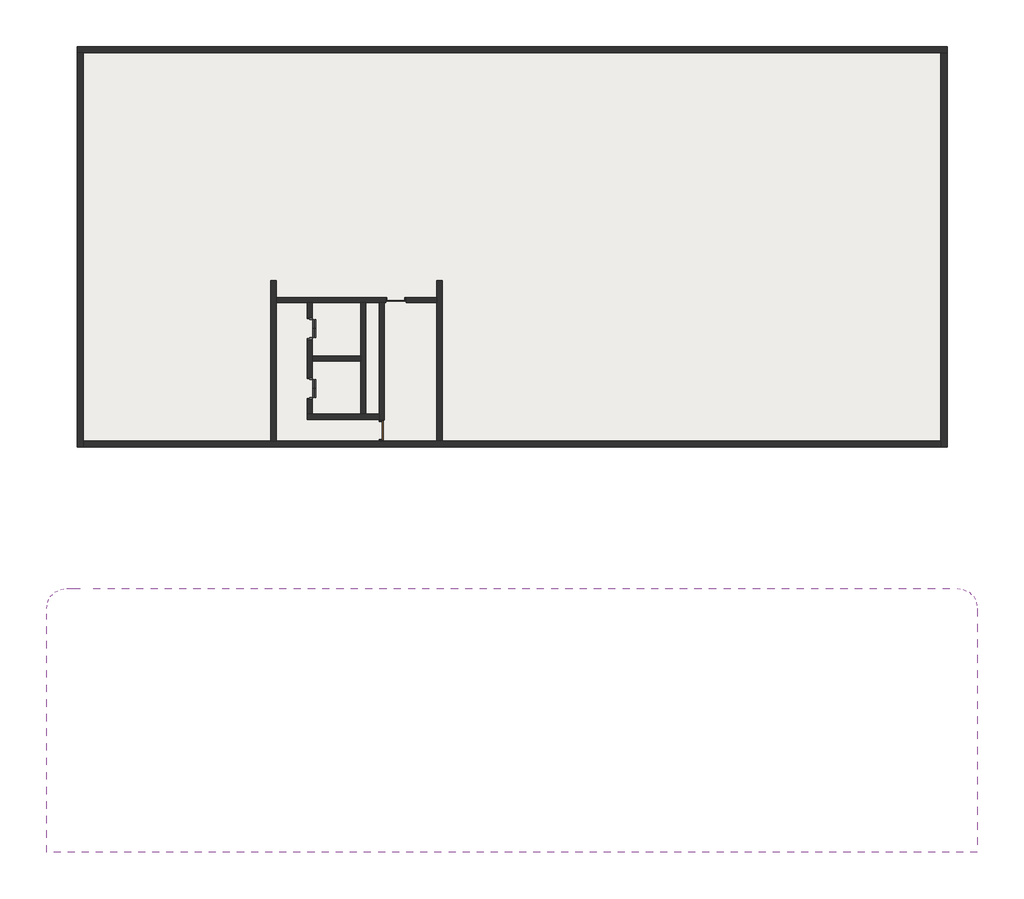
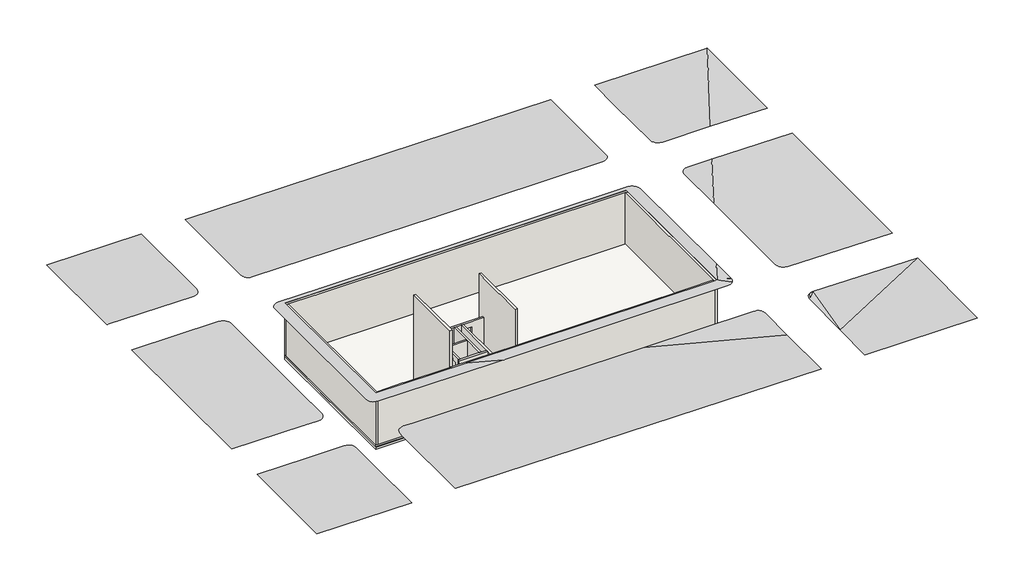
# One storey, incomplete: 12 walls, 3 proxies, 2 doors, 2 slabs.
"""IFC4 building model written with IfcOpenShell, lengths in millimetres."""

from ifc_helpers import new_model, si_unit, frame, origin, place, context, project, spatial, polyline, outline, extrude, faceted_brep, triangles, transform, mapped, element, save
from components import lift_single_entry_gen_type1_208d8e88, swing_metal_frame_single_dor_f6efc24d

model = new_model("IFC4")

# Units and contexts
model_context = context("Model", 3, world=origin())
ifc_project = project(units=[si_unit("LENGTHUNIT", "METRE", prefix="MILLI")], contexts=[model_context])

# Site, building, storey
site = spatial("IfcSite", under=ifc_project)
building = spatial("IfcBuilding", under=site)
storey = spatial("IfcBuildingStorey", under=building, Name="B2階", Elevation=18100.0)

# Proxies
placement = place(None, origin())
element("IfcBuildingElementProxy", 1, Name="Building Element Proxy", at=placement, inside=storey, context=model_context, shape_type="Tessellation", body=[
    triangles([(-16527.2760773, -7010.0000244, 25061.0819275), (-16527.2760773, -20035.0003418, 25049.9988831), (-4650.3943428, -20035.0003418, 24999.8507812), (-4650.3943428, -12175.2103271, 25030.3512451), (-4650.3943428, -8010.000032, 25027.3746826), (-4699.337867, -7700.9828476, 25027.2119019), (-4841.3771622, -7422.2149796, 25027.1793457), (-5062.6090073, -7200.9831345, 25027.2839905), (-5341.3774567, -7058.9435486, 25027.5118835), (-5650.3940598, -7010.0000244, 25027.8420959), (-10187.1607452, -7010.0000244, 25033.2022339), (52234.9976807, -20035.0003418, 24759.6561401), (66363.1167114, -20035.0003418, 24699.9993164), (66363.1167114, -7010.0000244, 24733.2437988), (53235.0017578, -7010.0000244, 24887.9343567), (52925.9834106, -7058.9435486, 24891.4504211), (52749.910437, -7148.6572586, 24893.2944946), (52647.2143799, -7200.9831345, 24892.5108215), (52425.9813721, -7422.2149796, 24889.1924194), (52283.9435303, -7700.9828476, 24885.0112793), (52234.9976807, -8010.000032, 24880.374353), (52234.9976807, -14670.0801361, 24780.4734741), (66363.1167114, 25689.999353, 24816.7038208), (66363.1167114, 38735.0007751, 24849.9994629), (52255.0011108, 38735.0007751, 24892.550354), (52255.0011108, 34327.4884094, 24883.0555847), (52255.0011108, 26690.0011047, 24906.9145935), (52303.9423096, 26380.9827576, 24907.8145386), (52445.9848022, 26102.2137268, 24908.4912415), (52667.2131592, 25880.9830444, 24908.8795898), (52945.9821899, 25738.9428772, 24908.9423767), (53255.0005371, 25689.999353, 24908.6726257), (59254.1087769, 25689.999353, 24900.4708008), (-4650.3943428, 38735.0007751, 25064.1794128), (-16527.2760773, 38735.0007751, 25100.0004822), (-16527.2760773, 25689.999353, 25088.9011597), (-5650.3940598, 25689.999353, 25041.0738464), (-5341.3774567, 25738.9428772, 25039.7553223), (-5062.6090073, 25880.9830444, 25038.6507385), (-4841.3771622, 26102.2137268, 25037.8670654), (-4759.2138634, 26263.4690002, 25037.6414978), (-4699.337867, 26380.9827576, 25037.7159119), (-4650.3943428, 26690.0011047, 25038.2321594), (52234.9976807, 19209.9995361, 24930.3108398), (52234.9976807, 12809.9680939, 24950.3026428), (52234.9976807, -510.0000112, 24916.3070435), (52283.9435303, -819.0170139, 24914.9420105), (52425.9813721, -1097.7852453, 24912.5561096), (52647.2143799, -1319.0170177, 24909.3842102), (52925.9834106, -1461.0564583, 24905.7379211), (53235.0017578, -1509.9999825, 24901.9707092), (66363.1167114, -1509.9999825, 24747.2824768), (66363.1167114, 20209.9989624, 24802.7186279), (56267.7236206, 20209.9989624, 24921.6718323), (53235.0017578, 20209.9989624, 24925.8180908), (52925.9834106, 20161.0554382, 24926.3947998), (52647.2143799, 20019.0175964, 24927.2180054), (52425.9813721, 19797.7845886, 24928.2132935), (52283.9435303, 19519.0178833, 24929.2783447), (46734.9985107, 38735.0007751, 24909.198175), (869.6057138, 38735.0007751, 25047.5315918), (869.6057138, 26690.0011047, 25021.5843384), (917.5703733, 26387.1637756, 25020.7867126), (1056.7690716, 26113.9711487, 25019.7797974), (1273.5761868, 25897.1634521, 25018.6589355), (1546.7691044, 25757.9649719, 25017.5334229), (1849.6057068, 25710.0004578, 25016.5172058), (24671.0615479, 25710.0004578, 24947.6865234), (45734.9990845, 25710.0004578, 24918.8906067), (46044.0174316, 25758.9439819, 24918.3162231), (46322.7864624, 25900.9841492, 24917.4906921), (46544.0148193, 26122.2148315, 24916.4977295), (46686.057312, 26400.9838623, 24915.4326782), (46734.9985107, 26709.999884, 24914.4001831), (46734.9985107, 32602.9866943, 24895.989679), (-16527.2760773, 20209.9989624, 25084.2386536), (-16527.2760773, -1509.9999825, 25065.7607117), (-7509.9532288, -1509.9999825, 25026.1096436), (-5650.3940598, -1509.9999825, 25023.9121033), (-5341.3774567, -1461.0564583, 25023.5121277), (-5062.6090073, -1319.0170177, 25023.0819214), (-4841.3771622, -1097.7852453, 25022.6610168), (-4699.337867, -819.0170139, 25022.2935974), (-4650.3943428, -510.0000112, 25022.0168701), (-4650.3943428, 4364.6178909, 25018.5333618), (-4650.3943428, 19209.9995361, 25031.1628235), (-4699.337867, 19519.0178833, 25031.641864), (-4841.3771622, 19797.7845886, 25032.5022766), (-5062.6090073, 20019.0175964, 25033.6649963), (-5341.3774567, 20161.0554382, 25035.0114258), (-5650.3940598, 20209.9989624, 25036.4113403), (849.6056992, -20035.0003418, 24976.6266174), (46734.9985107, -20035.0003418, 24782.8779785), (46734.9985107, -12581.5448273, 24811.8017944), (46734.9985107, -8010.000032, 24880.374353), (46686.057312, -7700.9828476, 24885.0112793), (46544.0148193, -7422.2149796, 24889.1924194), (46322.7864624, -7200.9831345, 24892.5108215), (46044.0174316, -7058.9435486, 24894.6409241), (45734.9990845, -7010.0000244, 24895.3757629), (32062.7499023, -7010.0000244, 24895.3757629), (3154.724881, -7010.0000244, 25017.4380798), (1849.6057068, -7010.0000244, 25018.9798462), (1540.588813, -7058.9435486, 25019.3798218), (1261.820509, -7200.9831345, 25019.8100281), (1040.5887365, -7422.2149796, 25020.2309326), (898.5492233, -7700.9828476, 25020.5960266), (849.6056992, -8010.000032, 25020.8750793), (849.6056992, -8535.4638885, 25021.2518005), (46734.9985107, 19209.9995361, 24937.8289856), (46686.057312, 19519.0178833, 24936.931366), (46544.0148193, 19797.7845886, 24936.2546631), (46322.7864624, 20019.0175964, 24935.8663147), (46044.0174316, 20161.0554382, 24935.8035278), (45734.9990845, 20209.9989624, 24936.0732788), (7065.9710266, 20209.9989624, 24988.9374939), (1869.6057941, 20209.9989624, 25004.6109558), (1560.588755, 20161.0554382, 25005.4364868), (1281.820451, 20019.0175964, 25005.9713379), (1205.2584091, 19942.4548279, 25006.0364502), (1060.5887512, 19797.7845886, 25006.5503723), (918.549238, 19519.0178833, 25006.9387207), (869.6057138, 19209.9995361, 25006.8898865), (869.6057138, 15704.7902344, 25003.9086731), (869.6057138, -529.9999895, 25015.5079651), (917.5703733, -832.8366646, 25015.6684204), (1056.7690716, -1106.0295822, 25015.6986511), (1273.5761868, -1322.8366974, 25015.5963318), (1546.7691044, -1462.035323, 25015.3730896), (1849.6057068, -1509.9999825, 25015.0498535), (11465.7420044, -1509.9999825, 25003.6877563), (17578.9095612, -1509.9999825, 24977.8753784), (45734.9990845, -1509.9999825, 24977.8753784), (46044.0174316, -1461.0564583, 24978.6102173), (46322.7864624, -1319.0170177, 24980.7403198), (46453.4296509, -1188.3725939, 24982.6983398), (46544.0148193, -1097.7852453, 24981.8635071), (46686.057312, -819.0170139, 24980.9007751), (46734.9985107, -510.0000112, 24981.1123901), (46734.9985107, 2717.4931389, 24989.3514221), (45235.0016968, -50.0000004, 24999.7740417), (13734.108197, -50.0000004, 24999.7740417), (13671.9398987, -50.0000004, 25000.0368164), (2369.605798, -50.0000004, 25013.3918152), (2369.605798, 18693.6566345, 24999.9996094), (2369.605798, 18724.0594299, 24999.9996094), (2369.605798, 18742.810611, 24999.9414734), (2369.605798, 19709.9992493, 25002.0250671), (5465.508252, 19709.9992493, 24992.6884277), (45235.0016968, 19709.9992493, 24938.3173279), (45235.0016968, -35.0000007, 24999.9996094), (2344.6057251, 18734.9994598, 24999.9996094)], [[9, 5, 8], [1, 2, 11], [9, 10, 5], [11, 2, 4], [4, 5, 10], [8, 6, 7], [8, 5, 6], [4, 2, 3], [10, 11, 4], [78, 85, 77], [84, 78, 79], [80, 81, 84], [82, 83, 84], [82, 84, 81], [80, 84, 79], [85, 78, 84], [103, 108, 109], [106, 107, 108], [109, 92, 102], [106, 108, 105], [108, 104, 105], [103, 104, 108], [109, 102, 103], [125, 126, 144], [144, 124, 125], [77, 85, 76], [144, 126, 127], [130, 131, 144], [128, 129, 144], [144, 129, 130], [128, 144, 127], [92, 101, 102], [91, 76, 86], [36, 37, 43], [86, 87, 88], [86, 89, 90], [89, 86, 88], [86, 90, 91], [76, 85, 86], [38, 39, 41], [36, 43, 35], [41, 39, 40], [37, 41, 43], [37, 38, 41], [34, 35, 43], [62, 67, 61], [43, 41, 42], [123, 152, 122], [152, 123, 145], [148, 121, 122], [122, 152, 148], [146, 147, 152], [148, 152, 147], [121, 148, 120], [144, 145, 124], [152, 145, 146], [117, 148, 149], [119, 120, 118], [64, 65, 62], [66, 62, 65], [148, 118, 120], [148, 117, 118], [149, 116, 117], [67, 62, 66], [67, 68, 61], [62, 63, 64], [124, 145, 123], [143, 144, 131], [98, 99, 100], [133, 141, 132], [94, 100, 101], [95, 98, 100], [95, 97, 98], [97, 95, 96], [95, 100, 94], [94, 101, 93], [141, 133, 134], [142, 143, 131], [150, 151, 140], [132, 141, 142], [134, 136, 141], [138, 141, 136], [139, 141, 138], [138, 136, 137], [136, 134, 135], [151, 141, 139], [132, 142, 131], [17, 21, 15], [12, 13, 22], [21, 17, 20], [22, 15, 21], [19, 17, 18], [17, 19, 20], [22, 13, 14], [49, 50, 46], [46, 47, 48], [46, 48, 49], [50, 51, 46], [17, 15, 16], [15, 22, 14], [51, 52, 46], [46, 52, 45], [93, 101, 92], [150, 115, 116], [113, 150, 112], [113, 114, 150], [150, 114, 115], [150, 111, 112], [150, 110, 111], [110, 150, 140], [151, 139, 140], [69, 70, 71], [68, 69, 75], [74, 69, 71], [72, 73, 74], [60, 68, 75], [69, 74, 75], [71, 72, 74], [68, 60, 61], [150, 116, 149], [59, 44, 58], [57, 58, 44], [44, 56, 57], [56, 44, 55], [55, 44, 54], [45, 54, 44], [45, 53, 54], [27, 28, 30], [33, 26, 27], [24, 25, 26], [29, 30, 28], [33, 23, 24], [27, 31, 32], [33, 24, 26], [27, 30, 31], [27, 32, 33], [53, 45, 52]], closed=False),
])
lift_single_entry_gen_type1_shape = lift_single_entry_gen_type1_208d8e88(model_context)
element("IfcBuildingElementProxy", 2, Name="Lift_Single Entry_GEN : Type1", ObjectType="Lift_Single Entry_GEN : Type1", at=placement, inside=storey, context=model_context, shape_type="MappedRepresentation", body=[
    mapped(lift_single_entry_gen_type1_shape, transform((13819.6062665, 5591.0857154, 18100.0), x_axis=(0.0, 1.0, 0.0), y_axis=(-1.0, 0.0, 0.0), z_axis=(0.0, 0.0, 1.0))),
])
element("IfcBuildingElementProxy", 3, Name="Lift_Single Entry_GEN : Type1", ObjectType="Lift_Single Entry_GEN : Type1", at=placement, inside=storey, context=model_context, shape_type="MappedRepresentation", body=[
    mapped(lift_single_entry_gen_type1_shape, transform((13819.6062665, 2641.0857154, 18100.0), x_axis=(0.0, 1.0, 0.0), y_axis=(-1.0, 0.0, 0.0), z_axis=(0.0, 0.0, 1.0))),
])

# Doors
swing_metal_frame_single_dor_shape = swing_metal_frame_single_dor_f6efc24d(model_context)
element("IfcDoor", 4, ObjectType="Swing_Metal Frame_Single_DOR : 2140h x 920 (2210x1010 BLK)", at=placement, inside=storey, context=model_context, shape_type="MappedRepresentation", body=[
    mapped(swing_metal_frame_single_dor_shape, transform((17369.6062665, 770.0, 18100.0), x_axis=(0.0, 1.0, 0.0), y_axis=(-1.0, 0.0, 0.0), z_axis=(0.0, 0.0, 1.0))),
])
element("IfcDoor", 5, ObjectType="Swing_Metal Frame_Single_DOR : 2140h x 920 (2210x1010 BLK)", at=placement, inside=storey, context=model_context, shape_type="MappedRepresentation", body=[
    mapped(swing_metal_frame_single_dor_shape, transform((18069.6062665, 7210.0, 18100.0), x_axis=(1.0, 0.0, 0.0), y_axis=(0.0, 1.0, 0.0), z_axis=(0.0, 0.0, 1.0))),
])

# Slabs
element("IfcSlab", 6, ObjectType="Concept Floor_300mm", at=placement, inside=storey, context=model_context, shape_type="SweptSolid", body=[
    extrude(outline(polyline([(2369.6057353, 19710.0), (45235.0, 19710.0), (45235.0, 50.0), (2369.6057353, 50.0), (2369.6057353, 19710.0)])), frame((0.0, 0.0, 17800.0), z_axis=(0.0, 0.0, 1.0), x_axis=(1.0, 0.0, 0.0)), (0.0, 0.0, 1.0), 300.0),
])
element("IfcSlab", 7, ObjectType="Pad 1", at=placement, inside=storey, context=model_context, shape_type="SweptSolid", body=[
    extrude(outline(polyline([(45235.0, -50.0), (2369.6057353, -50.0), (2369.6057353, 19710.0), (45235.0, 19710.0), (45235.0, -50.0)])), frame((0.0, 0.0, 17500.0), z_axis=(0.0, 0.0, 1.0), x_axis=(1.0, 0.0, 0.0)), (0.0, 0.0, 1.0), 300.0),
])

# Walls
element("IfcWall", 8, ObjectType="Brickwork_Double_270mm", at=placement, inside=storey, context=model_context, shape_type="Brep", body=[
    faceted_brep([(12182.1904782, 250.0, 18100.0), (12182.1904782, 7085.0, 18100.0), (12182.1904782, 7335.0, 18100.0), (12182.1904782, 8160.005792, 18100.0), (12182.1904782, 8160.005792, 24900.0), (12182.1904782, 8160.005792, 25100.0), (12182.1904782, 8160.005792, 29700.0), (12182.1904782, 309.0898177, 29700.0), (12182.1904782, 309.0898177, 25100.0), (12182.1904782, 309.0898177, 24900.0), (12182.1904782, 250.0, 24900.0), (11912.1904782, 8160.005792, 18100.0), (11912.1904782, 250.0, 18100.0), (11912.1904782, 250.0, 24900.0), (11912.1904782, 309.0898177, 24900.0), (11912.1904782, 309.0898177, 27800.0), (11912.1904782, 309.0898177, 29700.0), (11912.1904782, 8160.005792, 29700.0), (11912.1904782, 8160.005792, 25100.0), (11912.1904782, 8160.005792, 24900.0)], [[[0, 1, 2, 3, 4, 5, 6, 7, 8, 9, 10]], [[11, 12, 13, 14, 15, 16, 17, 18, 19]], [[3, 2, 1, 0, 12, 11]], [[7, 6, 17, 16]], [[3, 11, 19, 18, 17, 6, 5, 4]], [[14, 13, 10, 9]], [[0, 10, 13, 12]], [[7, 16, 15, 14, 9, 8]]]),
])
element("IfcWall", 9, ObjectType="Brickwork_Double_270mm", at=placement, inside=storey, context=model_context, shape_type="Brep", body=[
    faceted_brep([(20364.6062665, 250.0, 18100.0), (20364.6062665, 8160.005792, 18100.0), (20364.6062665, 8160.005792, 29700.0), (20364.6062665, 309.0898177, 29700.0), (20364.6062665, 309.0898177, 24900.0), (20364.6062665, 250.0, 24900.0), (20094.6062665, 250.0, 18100.0), (20094.6062665, 250.0, 24900.0), (20094.6062665, 309.0898177, 24900.0), (20094.6062665, 309.0898177, 29700.0), (20094.6062665, 7085.0, 29700.0), (20094.6062665, 7335.0, 29700.0), (20094.6062665, 8160.005792, 29700.0), (20094.6062665, 8160.005792, 18100.0), (20094.6062665, 7335.0, 18100.0), (20094.6062665, 7085.0, 18100.0)], [[[0, 1, 2, 3, 4, 5]], [[6, 7, 8, 9, 10, 11, 12, 13, 14, 15]], [[1, 0, 6, 15, 14, 13]], [[3, 2, 12, 11, 10, 9]], [[4, 8, 7, 5]], [[0, 5, 7, 6]], [[4, 3, 9, 8]], [[2, 1, 13, 12]]]),
])
element("IfcWall", 10, ObjectType="C1 - Concrete Type 3 - 250mm", at=placement, inside=storey, context=model_context, shape_type="Brep", body=[
    faceted_brep([(13694.6062665, 1325.0, 18100.0), (17244.6062665, 1325.0, 18100.0), (17244.6062665, 1325.0, 24500.0), (13694.6062665, 1325.0, 24500.0), (13694.6062665, 1575.0, 18100.0), (13694.6062665, 1575.0, 24500.0), (13944.6062665, 1575.0, 24500.0), (16344.6062665, 1575.0, 24500.0), (16594.6062665, 1575.0, 24500.0), (17244.6062665, 1575.0, 24500.0), (17244.6062665, 1575.0, 18100.0), (16594.6062665, 1575.0, 18100.0), (16344.6062665, 1575.0, 18100.0), (13944.6062665, 1575.0, 18100.0)], [[[0, 1, 2, 3]], [[4, 5, 6, 7, 8, 9, 10, 11, 12, 13]], [[1, 0, 4, 13, 12, 11, 10]], [[3, 2, 9, 8, 7, 6, 5]], [[0, 3, 5, 4]], [[2, 1, 10, 9]]]),
])
element("IfcWall", 11, ObjectType="C1 - Concrete Type 3 - 250mm", at=placement, inside=storey, context=model_context, shape_type="SweptSolid", body=[
    extrude(outline(polyline([(16344.6062665, 4195.0), (13944.6062665, 4195.0), (13944.6062665, 4445.0), (16344.6062665, 4445.0), (16344.6062665, 4195.0)])), frame((0.0, 0.0, 18100.0), z_axis=(0.0, 0.0, 1.0), x_axis=(1.0, 0.0, 0.0)), (0.0, 0.0, 1.0), 6400.0),
])
element("IfcWall", 12, ObjectType="C1 - Concrete Type 3 - 250mm", at=placement, inside=storey, context=model_context, shape_type="Brep", body=[
    faceted_brep([(16594.6062665, 1575.0, 18100.0), (16594.6062665, 7085.0, 18100.0), (16594.6062665, 7085.0, 24500.0), (16594.6062665, 1575.0, 24500.0), (16344.6062665, 1575.0, 18100.0), (16344.6062665, 1575.0, 24500.0), (16344.6062665, 4195.0, 24500.0), (16344.6062665, 4445.0, 24500.0), (16344.6062665, 7085.0, 24500.0), (16344.6062665, 7085.0, 18100.0), (16344.6062665, 4445.0, 18100.0), (16344.6062665, 4195.0, 18100.0)], [[[0, 1, 2, 3]], [[4, 5, 6, 7, 8, 9, 10, 11]], [[1, 0, 4, 11, 10, 9]], [[3, 2, 8, 7, 6, 5]], [[0, 3, 5, 4]], [[2, 1, 9, 8]]]),
])
element("IfcWall", 13, ObjectType="C1 - Concrete Type 3 - 250mm", at=placement, inside=storey, context=model_context, shape_type="Brep", body=[
    faceted_brep([(13944.6062665, 7085.0, 24500.0), (13944.6062665, 4445.0, 24500.0), (13944.6062665, 4195.0, 24500.0), (13944.6062665, 1575.0, 24500.0), (13944.6062665, 1575.0, 18100.0), (13944.6062665, 2295.0, 18100.0), (13944.6062665, 2295.0, 20200.0), (13944.6062665, 3395.0, 20200.0), (13944.6062665, 3395.0, 18100.0), (13944.6062665, 4195.0, 18100.0), (13944.6062665, 4445.0, 18100.0), (13944.6062665, 5245.0, 18100.0), (13944.6062665, 5245.0, 20200.0), (13944.6062665, 6345.0, 20200.0), (13944.6062665, 6345.0, 18100.0), (13944.6062665, 7085.0, 18100.0), (13944.6062665, 2295.0, 21600.0), (13944.6062665, 2295.0, 23700.0), (13944.6062665, 3395.0, 23700.0), (13944.6062665, 3395.0, 21600.0), (13944.6062665, 5245.0, 21600.0), (13944.6062665, 5245.0, 23700.0), (13944.6062665, 6345.0, 23700.0), (13944.6062665, 6345.0, 21600.0), (13694.6062665, 1575.0, 24500.0), (13694.6062665, 7085.0, 24500.0), (13694.6062665, 7085.0, 18100.0), (13694.6062665, 6345.0, 18100.0), (13694.6062665, 6345.0, 20200.0), (13694.6062665, 5245.0, 20200.0), (13694.6062665, 5245.0, 18100.0), (13694.6062665, 3395.0, 18100.0), (13694.6062665, 3395.0, 20200.0), (13694.6062665, 2295.0, 20200.0), (13694.6062665, 2295.0, 18100.0), (13694.6062665, 1575.0, 18100.0), (13694.6062665, 2295.0, 23700.0), (13694.6062665, 2295.0, 21600.0), (13694.6062665, 3395.0, 21600.0), (13694.6062665, 3395.0, 23700.0), (13694.6062665, 2165.0, 22300.0), (13694.6062665, 2165.0, 22500.0), (13694.6062665, 2065.0, 22500.0), (13694.6062665, 2065.0, 22300.0), (13694.6062665, 2895.0, 23800.0), (13694.6062665, 2895.0, 24000.0), (13694.6062665, 2795.0, 24000.0), (13694.6062665, 2795.0, 23800.0), (13694.6062665, 5245.0, 23700.0), (13694.6062665, 5245.0, 21600.0), (13694.6062665, 6345.0, 21600.0), (13694.6062665, 6345.0, 23700.0), (13694.6062665, 5115.0, 22300.0), (13694.6062665, 5115.0, 22500.0), (13694.6062665, 5015.0, 22500.0), (13694.6062665, 5015.0, 22300.0), (13694.6062665, 5845.0, 23800.0), (13694.6062665, 5845.0, 24000.0), (13694.6062665, 5745.0, 24000.0), (13694.6062665, 5745.0, 23800.0), (13694.6062665, 2165.0, 18800.0), (13694.6062665, 2165.0, 19000.0), (13694.6062665, 2065.0, 19000.0), (13694.6062665, 2065.0, 18800.0), (13694.6062665, 2895.0, 20300.0), (13694.6062665, 2895.0, 20500.0), (13694.6062665, 2795.0, 20500.0), (13694.6062665, 2795.0, 20300.0), (13694.6062665, 5115.0, 18800.0), (13694.6062665, 5115.0, 19000.0), (13694.6062665, 5015.0, 19000.0), (13694.6062665, 5015.0, 18800.0), (13694.6062665, 5845.0, 20300.0), (13694.6062665, 5845.0, 20500.0), (13694.6062665, 5745.0, 20500.0), (13694.6062665, 5745.0, 20300.0), (13714.6062665, 2165.0, 22300.0), (13714.6062665, 2065.0, 22300.0), (13714.6062665, 2065.0, 22500.0), (13714.6062665, 2165.0, 22500.0), (13714.6062665, 2895.0, 23800.0), (13714.6062665, 2795.0, 23800.0), (13714.6062665, 2795.0, 24000.0), (13714.6062665, 2895.0, 24000.0), (13714.6062665, 5115.0, 22300.0), (13714.6062665, 5015.0, 22300.0), (13714.6062665, 5015.0, 22500.0), (13714.6062665, 5115.0, 22500.0), (13714.6062665, 5845.0, 23800.0), (13714.6062665, 5745.0, 23800.0), (13714.6062665, 5745.0, 24000.0), (13714.6062665, 5845.0, 24000.0), (13714.6062665, 2165.0, 18800.0), (13714.6062665, 2065.0, 18800.0), (13714.6062665, 2065.0, 19000.0), (13714.6062665, 2165.0, 19000.0), (13714.6062665, 2895.0, 20300.0), (13714.6062665, 2795.0, 20300.0), (13714.6062665, 2795.0, 20500.0), (13714.6062665, 2895.0, 20500.0), (13714.6062665, 5115.0, 18800.0), (13714.6062665, 5015.0, 18800.0), (13714.6062665, 5015.0, 19000.0), (13714.6062665, 5115.0, 19000.0), (13714.6062665, 5845.0, 20300.0), (13714.6062665, 5745.0, 20300.0), (13714.6062665, 5745.0, 20500.0), (13714.6062665, 5845.0, 20500.0)], [[[0, 1, 2, 3, 4, 5, 6, 7, 8, 9, 10, 11, 12, 13, 14, 15], [16, 17, 18, 19], [20, 21, 22, 23]], [[24, 25, 26, 27, 28, 29, 30, 31, 32, 33, 34, 35], [36, 37, 38, 39], [40, 41, 42, 43], [44, 45, 46, 47], [48, 49, 50, 51], [52, 53, 54, 55], [56, 57, 58, 59], [60, 61, 62, 63], [64, 65, 66, 67], [68, 69, 70, 71], [72, 73, 74, 75]], [[4, 35, 34, 5]], [[26, 15, 14, 27]], [[8, 31, 30, 11, 10, 9]], [[3, 2, 1, 0, 25, 24]], [[16, 37, 36, 17]], [[37, 16, 19, 38]], [[38, 19, 18, 39]], [[17, 36, 39, 18]], [[76, 77, 78, 79]], [[76, 79, 41, 40]], [[79, 78, 42, 41]], [[78, 77, 43, 42]], [[77, 76, 40, 43]], [[80, 81, 82, 83]], [[80, 83, 45, 44]], [[83, 82, 46, 45]], [[82, 81, 47, 46]], [[81, 80, 44, 47]], [[20, 49, 48, 21]], [[49, 20, 23, 50]], [[50, 23, 22, 51]], [[21, 48, 51, 22]], [[84, 85, 86, 87]], [[84, 87, 53, 52]], [[87, 86, 54, 53]], [[86, 85, 55, 54]], [[85, 84, 52, 55]], [[88, 89, 90, 91]], [[88, 91, 57, 56]], [[91, 90, 58, 57]], [[90, 89, 59, 58]], [[89, 88, 56, 59]], [[4, 3, 24, 35]], [[0, 15, 26, 25]], [[33, 6, 5, 34]], [[7, 32, 31, 8]], [[6, 33, 32, 7]], [[92, 93, 94, 95]], [[92, 95, 61, 60]], [[95, 94, 62, 61]], [[94, 93, 63, 62]], [[93, 92, 60, 63]], [[96, 97, 98, 99]], [[96, 99, 65, 64]], [[99, 98, 66, 65]], [[98, 97, 67, 66]], [[97, 96, 64, 67]], [[29, 12, 11, 30]], [[13, 28, 27, 14]], [[12, 29, 28, 13]], [[100, 101, 102, 103]], [[100, 103, 69, 68]], [[103, 102, 70, 69]], [[102, 101, 71, 70]], [[101, 100, 68, 71]], [[104, 105, 106, 107]], [[104, 107, 73, 72]], [[107, 106, 74, 73]], [[106, 105, 75, 74]], [[105, 104, 72, 75]]]),
])
element("IfcWall", 14, ObjectType="C1 - Concrete Type 3 - 250mm", at=placement, inside=storey, context=model_context, shape_type="Brep", body=[
    faceted_brep([(17494.6062665, 7085.0, 24500.0), (17494.6062665, 250.0, 24500.0), (17494.6062665, 250.0, 18100.0), (17494.6062665, 260.0, 18100.0), (17494.6062665, 260.0, 20310.0), (17494.6062665, 1280.0, 20310.0), (17494.6062665, 1280.0, 18100.0), (17494.6062665, 7085.0, 18100.0), (17494.6062665, 1280.0, 23810.0), (17494.6062665, 1280.0, 21600.0), (17494.6062665, 260.0, 21600.0), (17494.6062665, 260.0, 23810.0), (17244.6062665, 250.0, 24500.0), (17244.6062665, 1325.0, 24500.0), (17244.6062665, 1575.0, 24500.0), (17244.6062665, 7085.0, 24500.0), (17244.6062665, 7085.0, 18100.0), (17244.6062665, 1575.0, 18100.0), (17244.6062665, 1325.0, 18100.0), (17244.6062665, 1280.0, 18100.0), (17244.6062665, 1280.0, 20310.0), (17244.6062665, 260.0, 20310.0), (17244.6062665, 260.0, 18100.0), (17244.6062665, 250.0, 18100.0), (17244.6062665, 1280.0, 21600.0), (17244.6062665, 1280.0, 23810.0), (17244.6062665, 260.0, 23810.0), (17244.6062665, 260.0, 21600.0)], [[[0, 1, 2, 3, 4, 5, 6, 7], [8, 9, 10, 11]], [[12, 13, 14, 15, 16, 17, 18, 19, 20, 21, 22, 23], [24, 25, 26, 27]], [[16, 7, 6, 19, 18, 17]], [[2, 23, 22, 3]], [[1, 0, 15, 14, 13, 12]], [[24, 9, 8, 25]], [[25, 8, 11, 26]], [[26, 11, 10, 27]], [[9, 24, 27, 10]], [[0, 7, 16, 15]], [[2, 1, 12, 23]], [[5, 20, 19, 6]], [[20, 5, 4, 21]], [[21, 4, 3, 22]]]),
])
element("IfcWall", 15, ObjectType="C1 - Concrete Type 3 - 250mm", at=placement, inside=storey, context=model_context, shape_type="Brep", body=[
    faceted_brep([(20094.6062665, 7085.0, 24500.0), (17494.6062665, 7085.0, 24500.0), (17244.6062665, 7085.0, 24500.0), (16594.6062665, 7085.0, 24500.0), (16344.6062665, 7085.0, 24500.0), (13944.6062665, 7085.0, 24500.0), (13694.6062665, 7085.0, 24500.0), (12182.1904782, 7085.0, 24500.0), (12182.1904782, 7085.0, 18100.0), (13694.6062665, 7085.0, 18100.0), (13944.6062665, 7085.0, 18100.0), (16344.6062665, 7085.0, 18100.0), (16594.6062665, 7085.0, 18100.0), (17244.6062665, 7085.0, 18100.0), (17494.6062665, 7085.0, 18100.0), (17559.6062665, 7085.0, 18100.0), (17559.6062665, 7085.0, 20310.0), (18579.6062665, 7085.0, 20310.0), (18579.6062665, 7085.0, 18100.0), (20094.6062665, 7085.0, 18100.0), (18579.6062665, 7085.0, 23810.0), (18579.6062665, 7085.0, 21600.0), (17559.6062665, 7085.0, 21600.0), (17559.6062665, 7085.0, 23810.0), (12182.1904782, 7335.0, 24500.0), (20094.6062665, 7335.0, 24500.0), (20094.6062665, 7335.0, 18100.0), (18579.6062665, 7335.0, 18100.0), (18579.6062665, 7335.0, 20310.0), (17559.6062665, 7335.0, 20310.0), (17559.6062665, 7335.0, 18100.0), (12182.1904782, 7335.0, 18100.0), (18579.6062665, 7335.0, 21600.0), (18579.6062665, 7335.0, 23810.0), (17559.6062665, 7335.0, 23810.0), (17559.6062665, 7335.0, 21600.0)], [[[0, 1, 2, 3, 4, 5, 6, 7, 8, 9, 10, 11, 12, 13, 14, 15, 16, 17, 18, 19], [20, 21, 22, 23]], [[24, 25, 26, 27, 28, 29, 30, 31], [32, 33, 34, 35]], [[8, 31, 30, 15, 14, 13, 12, 11, 10, 9]], [[26, 19, 18, 27]], [[7, 6, 5, 4, 3, 2, 1, 0, 25, 24]], [[32, 21, 20, 33]], [[33, 20, 23, 34]], [[34, 23, 22, 35]], [[21, 32, 35, 22]], [[8, 7, 24, 31]], [[0, 19, 26, 25]], [[17, 28, 27, 18]], [[28, 17, 16, 29]], [[29, 16, 15, 30]]]),
])
element("IfcWall", 16, ObjectType="Concept_300mm", at=placement, inside=storey, context=model_context, shape_type="Brep", body=[
    faceted_brep([(2669.6057353, -50.0, 18100.0), (2669.6057353, 250.0, 18100.0), (2669.6057353, 19410.0, 18100.0), (2669.6057353, 19410.0, 24900.0), (2669.6057353, 250.0, 24900.0), (2669.6057353, -50.0, 24900.0), (2369.6057353, -50.0, 18100.0), (2369.6057353, -50.0, 24900.0), (2369.6057353, 19410.0, 24900.0), (2369.6057353, 19410.0, 18100.0)], [[[0, 1, 2, 3, 4, 5]], [[6, 7, 8, 9]], [[2, 1, 0, 6, 9]], [[5, 4, 3, 8, 7]], [[3, 2, 9, 8]], [[0, 5, 7, 6]]]),
])
element("IfcWall", 17, ObjectType="Concept_300mm", at=placement, inside=storey, context=model_context, shape_type="Brep", body=[
    faceted_brep([(44935.0, 19410.0, 18100.0), (44935.0, 250.0, 18100.0), (44935.0, -50.0, 18100.0), (44935.0, -50.0, 24900.0), (44935.0, 250.0, 24900.0), (44935.0, 19410.0, 24900.0), (45235.0, 19410.0, 18100.0), (45235.0, 19410.0, 24900.0), (45235.0, -50.0, 24900.0), (45235.0, -50.0, 18100.0)], [[[0, 1, 2, 3, 4, 5]], [[6, 7, 8, 9]], [[2, 1, 0, 6, 9]], [[5, 4, 3, 8, 7]], [[0, 5, 7, 6]], [[3, 2, 9, 8]]]),
])
element("IfcWall", 18, ObjectType="Concept_300mm", at=placement, inside=storey, context=model_context, shape_type="Brep", body=[
    faceted_brep([(2369.6057353, 19410.0, 18100.0), (2669.6057353, 19410.0, 18100.0), (44935.0, 19410.0, 18100.0), (45235.0, 19410.0, 18100.0), (45235.0, 19410.0, 24900.0), (44935.0, 19410.0, 24900.0), (6182.1904782, 19410.0, 24900.0), (5912.1904782, 19410.0, 24900.0), (2669.6057353, 19410.0, 24900.0), (2369.6057353, 19410.0, 24900.0), (2369.6057353, 19710.0, 18100.0), (2369.6057353, 19710.0, 24900.0), (45235.0, 19710.0, 24900.0), (45235.0, 19710.0, 18100.0)], [[[0, 1, 2, 3, 4, 5, 6, 7, 8, 9]], [[10, 11, 12, 13]], [[3, 2, 1, 0, 10, 13]], [[9, 8, 7, 6, 5, 4, 12, 11]], [[0, 9, 11, 10]], [[4, 3, 13, 12]]]),
])
element("IfcWall", 19, ObjectType="Concept_300mm", at=placement, inside=storey, context=model_context, shape_type="Brep", body=[
    faceted_brep([(2669.6057353, -50.0, 18100.0), (44935.0, -50.0, 18100.0), (44935.0, -50.0, 24900.0), (2669.6057353, -50.0, 24900.0), (2669.6057353, 250.0, 18100.0), (2669.6057353, 250.0, 24900.0), (5912.1904782, 250.0, 24900.0), (6182.1904782, 250.0, 24900.0), (11912.1904782, 250.0, 24900.0), (12182.1904782, 250.0, 24900.0), (20094.6062665, 250.0, 24900.0), (20364.6062665, 250.0, 24900.0), (38377.4654784, 250.0, 24900.0), (38647.4654784, 250.0, 24900.0), (44935.0, 250.0, 24900.0), (44935.0, 250.0, 18100.0), (20364.6062665, 250.0, 18100.0), (20094.6062665, 250.0, 18100.0), (17494.6062665, 250.0, 18100.0), (17244.6062665, 250.0, 18100.0), (12182.1904782, 250.0, 18100.0), (11912.1904782, 250.0, 18100.0)], [[[0, 1, 2, 3]], [[4, 5, 6, 7, 8, 9, 10, 11, 12, 13, 14, 15, 16, 17, 18, 19, 20, 21]], [[1, 0, 4, 21, 20, 19, 18, 17, 16, 15]], [[3, 2, 14, 13, 12, 11, 10, 9, 8, 7, 6, 5]], [[0, 3, 5, 4]], [[2, 1, 15, 14]]]),
])

save(model, "model.ifc")
